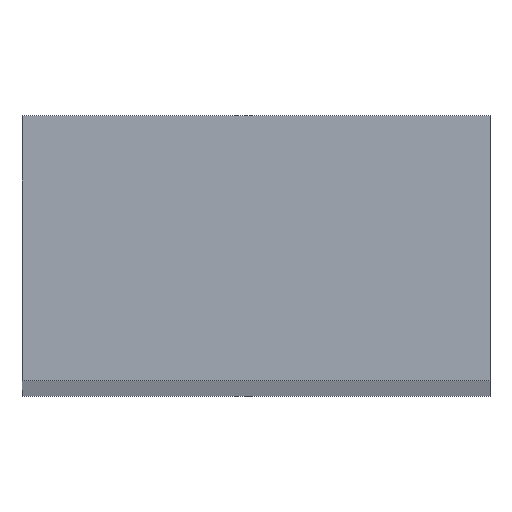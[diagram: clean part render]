
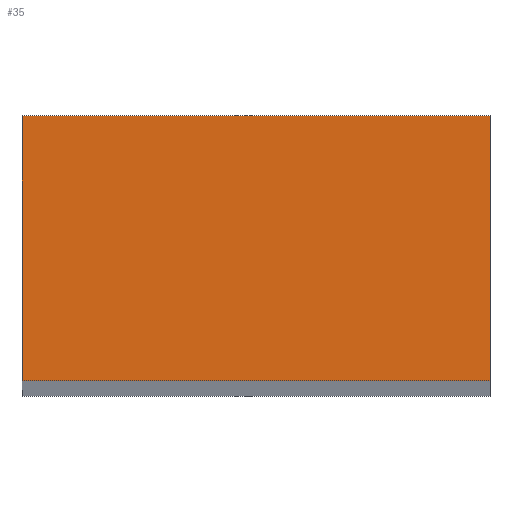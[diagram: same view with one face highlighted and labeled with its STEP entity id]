
A CAD part, top view. The second image highlights one B-rep face of the part: STEP entity #35.
In plain terms, the highlighted planar face has unit normal (0, 0, 1).
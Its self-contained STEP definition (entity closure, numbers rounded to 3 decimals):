
#8 = VERTEX_POINT ( 'NONE', #114 ) ;
#15 = VECTOR ( 'NONE', #89, 1000. ) ;
#17 = CARTESIAN_POINT ( 'NONE',  ( 2.65, -1.5, 100.8 ) ) ;
#19 = LINE ( 'NONE', #142, #120 ) ;
#26 = ORIENTED_EDGE ( 'NONE', *, *, #180, .T. ) ;
#35 = ADVANCED_FACE ( 'NONE', ( #136 ), #69, .T. ) ;
#38 = LINE ( 'NONE', #46, #79 ) ;
#46 = CARTESIAN_POINT ( 'NONE',  ( -2.65, 1.5, 100.8 ) ) ;
#47 = EDGE_CURVE ( 'NONE', #169, #8, #19, .T. ) ;
#48 = DIRECTION ( 'NONE',  ( 0., -1., 0. ) ) ;
#59 = CARTESIAN_POINT ( 'NONE',  ( -2.65, -1.5, 100.8 ) ) ;
#60 = EDGE_LOOP ( 'NONE', ( #74, #85, #163, #26 ) ) ;
#66 = CARTESIAN_POINT ( 'NONE',  ( 2.65, -1.5, 100.8 ) ) ;
#68 = EDGE_CURVE ( 'NONE', #122, #90, #38, .T. ) ;
#69 = PLANE ( 'NONE',  #84 ) ;
#72 = LINE ( 'NONE', #145, #15 ) ;
#74 = ORIENTED_EDGE ( 'NONE', *, *, #47, .T. ) ;
#76 = EDGE_CURVE ( 'NONE', #8, #122, #72, .T. ) ;
#79 = VECTOR ( 'NONE', #48, 1000. ) ;
#84 = AXIS2_PLACEMENT_3D ( 'NONE', #66, #162, #143 ) ;
#85 = ORIENTED_EDGE ( 'NONE', *, *, #76, .T. ) ;
#89 = DIRECTION ( 'NONE',  ( -1., 0., 0. ) ) ;
#90 = VERTEX_POINT ( 'NONE', #115 ) ;
#114 = CARTESIAN_POINT ( 'NONE',  ( 2.65, 1.5, 100.8 ) ) ;
#115 = CARTESIAN_POINT ( 'NONE',  ( -2.65, -1.5, 100.8 ) ) ;
#120 = VECTOR ( 'NONE', #174, 1000. ) ;
#122 = VERTEX_POINT ( 'NONE', #166 ) ;
#136 = FACE_OUTER_BOUND ( 'NONE', #60, .T. ) ;
#142 = CARTESIAN_POINT ( 'NONE',  ( 2.65, 1.5, 100.8 ) ) ;
#143 = DIRECTION ( 'NONE',  ( 1., 0., 0. ) ) ;
#145 = CARTESIAN_POINT ( 'NONE',  ( 2.65, 1.5, 100.8 ) ) ;
#153 = VECTOR ( 'NONE', #171, 1000. ) ;
#156 = LINE ( 'NONE', #59, #153 ) ;
#162 = DIRECTION ( 'NONE',  ( 0., 0., 1. ) ) ;
#163 = ORIENTED_EDGE ( 'NONE', *, *, #68, .T. ) ;
#166 = CARTESIAN_POINT ( 'NONE',  ( -2.65, 1.5, 100.8 ) ) ;
#169 = VERTEX_POINT ( 'NONE', #17 ) ;
#171 = DIRECTION ( 'NONE',  ( 1., 0., 0. ) ) ;
#174 = DIRECTION ( 'NONE',  ( 0., 1., 0. ) ) ;
#180 = EDGE_CURVE ( 'NONE', #90, #169, #156, .T. ) ;
